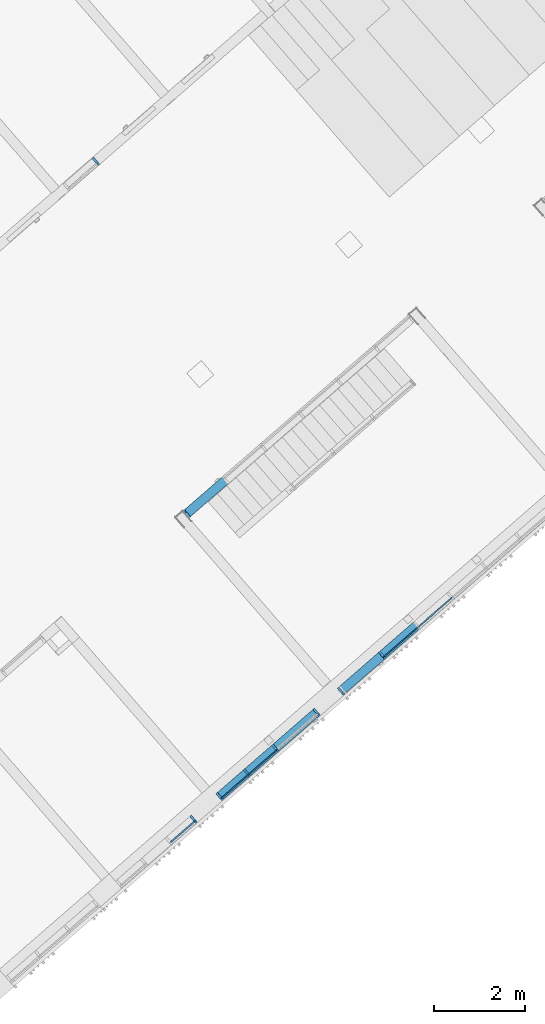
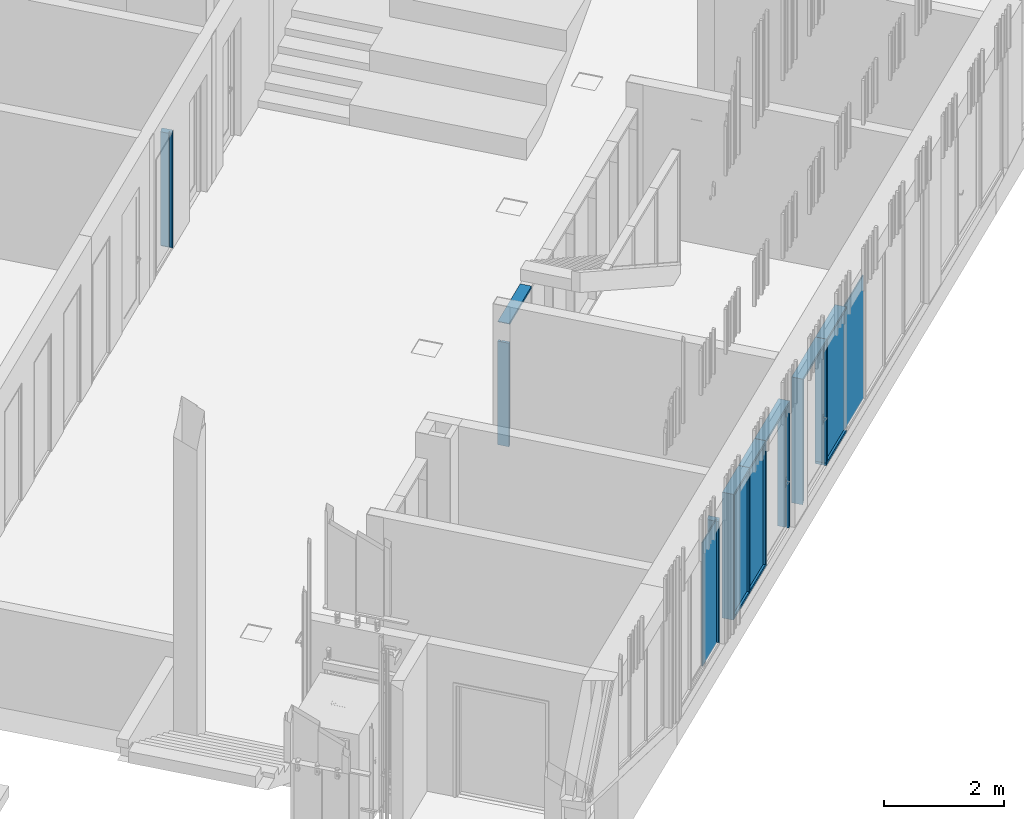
# One storey, part 7 of 124: 23 discrete accessories, 5 elements without a shape of their own.
"""IFC2X3 building model written with IfcOpenShell, lengths in millimetres."""

from ifc_helpers import new_model, entity, si_unit, converted_unit, derived_unit, money_unit, direction, frame, origin_with_axes, place, context, subcontext, project, spatial, polyline, outline, extrude, clip, halfspace, material, material_list, type_object, element, aggregate, save


model = new_model("IFC2X3")

# Units and contexts
model_context = context("Model", 3, precision=1e-05, world=origin_with_axes(), true_north=direction((0.0, 1.0)))
body_context = subcontext(model_context, "Body", "Model", "MODEL_VIEW")
ifc_project = project(units=[si_unit("LENGTHUNIT", "METRE", prefix="MILLI"), si_unit("AREAUNIT", "SQUARE_METRE"), si_unit("VOLUMEUNIT", "CUBIC_METRE"), converted_unit("PLANEANGLEUNIT", "DEGREE", entity("IfcPlaneAngleMeasure", 0.0174532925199), si_unit("PLANEANGLEUNIT", "RADIAN"), dimensions=[0, 0, 0, 0, 0, 0, 0]), si_unit("SOLIDANGLEUNIT", "STERADIAN"), money_unit("EUR"), converted_unit("TIMEUNIT", "Year", entity("IfcTimeMeasure", 31556926.0), si_unit("TIMEUNIT", "SECOND"), dimensions=[0, 0, 1, 0, 0, 0, 0]), si_unit("MASSUNIT", "GRAM", prefix="KILO"), si_unit("THERMODYNAMICTEMPERATUREUNIT", "DEGREE_CELSIUS"), si_unit("LUMINOUSINTENSITYUNIT", "LUMEN"), si_unit("ENERGYUNIT", "JOULE", prefix="MEGA"), derived_unit("THERMALCONDUCTANCEUNIT", [(si_unit("POWERUNIT", "WATT"), 1), (si_unit("LENGTHUNIT", "METRE"), -1), (si_unit("THERMODYNAMICTEMPERATUREUNIT", "KELVIN"), -1)]), derived_unit("SPECIFICHEATCAPACITYUNIT", [(si_unit("ENERGYUNIT", "JOULE"), 1), (si_unit("MASSUNIT", "GRAM", prefix="KILO"), -1), (si_unit("THERMODYNAMICTEMPERATUREUNIT", "KELVIN"), -1)]), derived_unit("MASSDENSITYUNIT", [(si_unit("MASSUNIT", "GRAM", prefix="KILO"), 1), (si_unit("VOLUMEUNIT", "CUBIC_METRE"), -1)])], contexts=[model_context])

# Site, building, storey
site_placement = place(None, origin_with_axes())
site = spatial("IfcSite", under=ifc_project, at=site_placement, Name="Site", CompositionType="ELEMENT")
building_placement = place(site_placement, origin_with_axes())
building = spatial("IfcBuilding", under=site, at=building_placement, Name="Building", CompositionType="ELEMENT")
storey_placement = place(building_placement, frame((0.0, 0.0, -1615.0), z_axis=(0.0, 0.0, 1.0), x_axis=(1.0, 0.0, 0.0)))
storey = spatial("IfcBuildingStorey", under=building, at=storey_placement, Name="0  korrus", CompositionType="ELEMENT", Elevation=-1615.0)

# Curtain wall, discrete accessory
curtain_wall_type_1 = type_object("IfcCurtainWallType", Name="KS-07", PredefinedType="NOTDEFINED")
curtain_wall_1_placement = place(storey_placement, frame((152372.169212, 93611.2845687, 0.0), z_axis=(0.0, 0.0, 1.0), x_axis=(1.0, 0.0, 0.0)))
curtain_wall_1 = element("IfcCurtainWall", 1, at=curtain_wall_1_placement, inside=storey, type_object=curtain_wall_type_1, Name="Klaas-sein")
ifc_material_1 = material(Name="Aluminium MUST")
ifc_material_list_1 = material_list([ifc_material_1, ifc_material_1, ifc_material_1])
discrete_accessory_type_1 = type_object("IfcDiscreteAccessoryType", Name="50 x 200")
discrete_accessory_1_placement = place(curtain_wall_1_placement, frame((339.619310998, 295.226563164, 0.0), z_axis=(0.0, 0.0, 1.0), x_axis=(-0.754709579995, -0.656059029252, 0.0)))
discrete_accessory_1 = element("IfcDiscreteAccessory", 2, at=discrete_accessory_1_placement, type_object=discrete_accessory_type_1, material=ifc_material_list_1, Name="KS-07 profiil", context=body_context, shape_type="Clipping", body=[
    clip(clip(extrude(outline(polyline([(-25.4283297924, -8.85437993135), (-12.3071492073, -23.9485715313), (6.56059029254, -7.54709579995), (-6.56059029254, 7.54709579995), (-25.4283297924, -8.85437993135)])), frame((0.0, 0.0, 0.0), z_axis=(0.0, 0.0, 1.0), x_axis=(-0.754709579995, 0.656059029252, 0.0)), (0.0, 0.0, 1.0), 2400.00001788), halfspace(frame((1200.00000894, 0.0, 1200.00000894), z_axis=(-0.707106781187, 0.0, -0.707106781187), x_axis=(0.0, 1.0, 0.0)), True)), halfspace(frame((0.0, 0.0, 0.0), z_axis=(-0.707106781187, 0.0, 0.707106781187), x_axis=(0.0, -1.0, 0.0)), True)),
    clip(clip(extrude(outline(polyline([(-136.144333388, 80.4034855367), (-44.2960692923, -25.2558556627), (-6.56059029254, 7.54709579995), (-98.4088543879, 113.206436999), (-136.144333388, 80.4034855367)])), frame((0.0, 0.0, 0.0), z_axis=(0.0, 0.0, 1.0), x_axis=(-0.754709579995, 0.656059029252, 0.0)), (0.0, 0.0, 1.0), 2400.00001788), halfspace(frame((1200.00000894, 0.0, 1200.00000894), z_axis=(-0.707106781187, 0.0, -0.707106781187), x_axis=(0.0, 1.0, 0.0)), True)), halfspace(frame((0.0, 0.0, 0.0), z_axis=(-0.707106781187, 0.0, 0.707106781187), x_axis=(0.0, -1.0, 0.0)), True)),
    clip(clip(extrude(outline(polyline([(32.8029514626, -37.7354789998), (6.56059029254, -7.54709579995), (-31.1748887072, -40.3500472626), (-4.93252753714, -70.5384304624), (32.8029514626, -37.7354789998)])), frame((0.0, 0.0, 0.0), z_axis=(0.0, 0.0, 1.0), x_axis=(-0.754709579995, 0.656059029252, 0.0)), (0.0, 0.0, 1.0), 2400.00001788), halfspace(frame((1200.00000894, 0.0, 1200.00000894), z_axis=(-0.707106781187, 0.0, -0.707106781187), x_axis=(0.0, 1.0, 0.0)), True)), halfspace(frame((0.0, 0.0, 0.0), z_axis=(-0.707106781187, 0.0, 0.707106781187), x_axis=(0.0, -1.0, 0.0)), True)),
])
aggregate(curtain_wall_1, [discrete_accessory_1])

# Curtain wall, discrete accessories
curtain_wall_type_2 = type_object("IfcCurtainWallType", Name="KLF-04", PredefinedType="NOTDEFINED")
curtain_wall_2_placement = place(storey_placement, frame((162346.343492, 85970.7645105, 0.0), z_axis=(0.0, 0.0, 1.0), x_axis=(1.0, 0.0, 0.0)))
curtain_wall_2 = element("IfcCurtainWall", 3, at=curtain_wall_2_placement, inside=storey, type_object=curtain_wall_type_2, Name="Klaasfassaad")
discrete_accessory_type_2 = type_object("IfcDiscreteAccessoryType", Name="50 x 200")
discrete_accessory_2_placement = place(curtain_wall_2_placement, frame((-3366.01529213, -2926.01111637, 0.0), z_axis=(0.754711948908, 0.65605630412, 0.0), x_axis=(0.0, 0.0, 1.0)))
discrete_accessory_2 = element("IfcDiscreteAccessory", 4, at=discrete_accessory_2_placement, type_object=discrete_accessory_type_2, Name="KLF-04 profiil", context=body_context, shape_type="SweptSolid", body=[
    extrude(outline(polyline([(-10.0, -25.0), (10.0, -25.0), (10.0, 0.0), (-10.0, 0.0), (-10.0, -25.0)])), frame((0.0, 0.0, -25.0), z_axis=(0.0, 0.0, 1.0), x_axis=(0.0, 1.0, 0.0)), (0.0, 0.0, 1.0), 1020.0),
    extrude(outline(polyline([(-150.0, -50.0), (-10.0, -50.0), (-10.0, 0.0), (-150.0, 0.0), (-150.0, -50.0)])), frame((0.0, 0.0, -25.0), z_axis=(0.0, 0.0, 1.0), x_axis=(0.0, 1.0, 0.0)), (0.0, 0.0, 1.0), 1020.0),
    extrude(outline(polyline([(50.0, 0.0), (10.0, 0.0), (10.0, -50.0), (50.0, -50.0), (50.0, 0.0)])), frame((0.0, 0.0, -25.0), z_axis=(0.0, 0.0, 1.0), x_axis=(0.0, 1.0, 0.0)), (0.0, 0.0, 1.0), 1020.0),
])
ifc_material_list_2 = material_list([ifc_material_1, ifc_material_1])
discrete_accessory_3_placement = place(curtain_wall_2_placement, frame((-3366.01529213, -2926.01111637, 0.0), z_axis=(0.0, 0.0, 1.0), x_axis=(-0.754711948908, -0.65605630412, 0.0)))
discrete_accessory_3 = element("IfcDiscreteAccessory", 5, at=discrete_accessory_3_placement, type_object=discrete_accessory_type_2, material=ifc_material_list_2, Name="KLF-04 profiil", context=body_context, shape_type="SweptSolid", body=[
    extrude(outline(polyline([(12.3072356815, 23.9485270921), (-79.5406468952, 129.608199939), (-117.276244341, 96.8053847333), (-25.4283617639, -8.85428811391), (12.3072356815, 23.9485270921)])), frame((0.0, 0.0, 50.0), z_axis=(0.0, 0.0, 1.0), x_axis=(-0.754711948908, 0.65605630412, 0.0)), (0.0, 0.0, 1.0), 2450.00001132),
    extrude(outline(polyline([(25.4283617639, 8.85428811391), (-12.3072356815, -23.9485270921), (13.9350164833, -54.1370050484), (51.6706139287, -21.3341898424), (25.4283617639, 8.85428811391)])), frame((0.0, 0.0, 50.0), z_axis=(0.0, 0.0, 1.0), x_axis=(-0.754711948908, 0.65605630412, 0.0)), (0.0, 0.0, 1.0), 2450.00001132),
])
discrete_accessory_4_placement = place(curtain_wall_2_placement, frame((-4290.53742954, -3729.68008892, 2550.00001132), z_axis=(0.754711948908, 0.65605630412, 0.0), x_axis=(0.0, 0.0, 1.0)))
discrete_accessory_4 = element("IfcDiscreteAccessory", 6, at=discrete_accessory_4_placement, type_object=discrete_accessory_type_2, Name="KLF-04 profiil", context=body_context, shape_type="Clipping", body=[
    clip(extrude(outline(polyline([(-10.0, 25.0), (-10.0, 0.0), (10.0, 0.0), (10.0, 25.0), (-10.0, 25.0)])), frame((0.0, 0.0, 0.0), z_axis=(0.0, 0.0, 1.0), x_axis=(0.0, 1.0, 0.0)), (0.0, 0.0, 1.0), 1225.0), halfspace(frame((0.0, 0.0, 0.0), z_axis=(0.707106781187, 0.0, 0.707106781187), x_axis=(0.0, -1.0, 0.0)), True)),
    clip(extrude(outline(polyline([(-150.0, 50.0), (-150.0, 0.0), (-10.0, 0.0), (-10.0, 50.0), (-150.0, 50.0)])), frame((0.0, 0.0, 0.0), z_axis=(0.0, 0.0, 1.0), x_axis=(0.0, 1.0, 0.0)), (0.0, 0.0, 1.0), 1225.0), halfspace(frame((0.0, 0.0, 0.0), z_axis=(0.707106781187, 0.0, 0.707106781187), x_axis=(0.0, -1.0, 0.0)), True)),
    clip(extrude(outline(polyline([(50.0, 0.0), (50.0, 50.0), (10.0, 50.0), (10.0, 0.0), (50.0, 0.0)])), frame((0.0, 0.0, 0.0), z_axis=(0.0, 0.0, 1.0), x_axis=(0.0, 1.0, 0.0)), (0.0, 0.0, 1.0), 1225.0), halfspace(frame((0.0, 0.0, 0.0), z_axis=(0.707106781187, 0.0, 0.707106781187), x_axis=(0.0, -1.0, 0.0)), True)),
])
discrete_accessory_5_placement = place(curtain_wall_2_placement, frame((-3366.01529213, -2926.01111637, 2550.00001132), z_axis=(0.754711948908, 0.65605630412, 0.0), x_axis=(0.0, 0.0, 1.0)))
discrete_accessory_5 = element("IfcDiscreteAccessory", 7, at=discrete_accessory_5_placement, type_object=discrete_accessory_type_2, Name="KLF-04 profiil", context=body_context, shape_type="SweptSolid", body=[
    extrude(outline(polyline([(-10.0, 25.0), (-10.0, 0.0), (10.0, 0.0), (10.0, 25.0), (-10.0, 25.0)])), frame((0.0, 0.0, 0.0), z_axis=(0.0, 0.0, 1.0), x_axis=(0.0, 1.0, 0.0)), (0.0, 0.0, 1.0), 995.0),
    extrude(outline(polyline([(-150.0, 50.0), (-150.0, 0.0), (-10.0, 0.0), (-10.0, 50.0), (-150.0, 50.0)])), frame((0.0, 0.0, 0.0), z_axis=(0.0, 0.0, 1.0), x_axis=(0.0, 1.0, 0.0)), (0.0, 0.0, 1.0), 995.0),
    extrude(outline(polyline([(50.0, 0.0), (50.0, 50.0), (10.0, 50.0), (10.0, 0.0), (50.0, 0.0)])), frame((0.0, 0.0, 0.0), z_axis=(0.0, 0.0, 1.0), x_axis=(0.0, 1.0, 0.0)), (0.0, 0.0, 1.0), 995.0),
])
discrete_accessory_6_placement = place(curtain_wall_2_placement, frame((-4290.53742954, -3729.68008892, 0.0), z_axis=(0.0, 0.0, 1.0), x_axis=(-0.754711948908, -0.65605630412, 0.0)))
discrete_accessory_6 = element("IfcDiscreteAccessory", 8, at=discrete_accessory_6_placement, type_object=discrete_accessory_type_2, Name="KLF-04 profiil", context=body_context, shape_type="Clipping", body=[
    clip(clip(extrude(outline(polyline([(12.3072356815, 23.9485270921), (-6.56056304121, 7.54711948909), (6.56056304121, -7.54711948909), (25.4283617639, 8.85428811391), (12.3072356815, 23.9485270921)])), frame((0.0, 0.0, 0.0), z_axis=(0.0, 0.0, 1.0), x_axis=(-0.754711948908, 0.65605630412, 0.0)), (0.0, 0.0, 1.0), 2550.00001132), halfspace(frame((0.0, 0.0, 0.0), z_axis=(0.707106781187, 0.0, 0.707106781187), x_axis=(0.0, -1.0, 0.0)), True)), halfspace(frame((-1275.00000566, 0.0, 1275.00000566), z_axis=(0.707106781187, 0.0, -0.707106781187), x_axis=(0.0, 1.0, 0.0)), True)),
    clip(clip(extrude(outline(polyline([(-60.6728481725, 146.009607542), (-98.4084456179, 113.206792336), (-6.56056304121, 7.54711948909), (31.1750344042, 40.3499346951), (-60.6728481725, 146.009607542)])), frame((0.0, 0.0, 0.0), z_axis=(0.0, 0.0, 1.0), x_axis=(-0.754711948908, 0.65605630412, 0.0)), (0.0, 0.0, 1.0), 2550.00001132), halfspace(frame((0.0, 0.0, 0.0), z_axis=(0.707106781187, 0.0, 0.707106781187), x_axis=(0.0, -1.0, 0.0)), True)), halfspace(frame((-1275.00000566, 0.0, 1275.00000566), z_axis=(0.707106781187, 0.0, -0.707106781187), x_axis=(0.0, 1.0, 0.0)), True)),
    clip(clip(extrude(outline(polyline([(32.802815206, -37.7355974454), (70.5384126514, -4.93278223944), (44.2961604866, 25.2556957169), (6.56056304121, -7.54711948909), (32.802815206, -37.7355974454)])), frame((0.0, 0.0, 0.0), z_axis=(0.0, 0.0, 1.0), x_axis=(-0.754711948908, 0.65605630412, 0.0)), (0.0, 0.0, 1.0), 2550.00001132), halfspace(frame((0.0, 0.0, 0.0), z_axis=(0.707106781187, 0.0, 0.707106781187), x_axis=(0.0, -1.0, 0.0)), True)), halfspace(frame((-1275.00000566, 0.0, 1275.00000566), z_axis=(0.707106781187, 0.0, -0.707106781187), x_axis=(0.0, 1.0, 0.0)), True)),
])
ifc_material_2 = material(Name="Klaas")
discrete_accessory_type_3 = type_object("IfcDiscreteAccessoryType", Name="Distinct Panel 995 x 2510 x 20")
discrete_accessory_7_placement = place(curtain_wall_2_placement, frame((-2990.54609755, -2599.62310507, 1275.00000566), z_axis=(0.0, 0.0, 1.0), x_axis=(-0.754711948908, -0.65605630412, 0.0)))
discrete_accessory_7 = element("IfcDiscreteAccessory", 9, at=discrete_accessory_7_placement, type_object=discrete_accessory_type_3, material=ifc_material_2, Name="KLF-04 klaaspakett", context=body_context, shape_type="SweptSolid", body=[
    extrude(outline(polyline([(-497.49998656, -1254.99998769), (497.499995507, -1254.99998769), (497.499995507, 1254.99998769), (-497.49998656, 1254.99998769), (-497.49998656, -1254.99998769)])), frame((0.0, -10.0, 0.0), z_axis=(0.0, 1.0, 0.0), x_axis=(1.0, 0.0, 0.0)), (0.0, 0.0, 1.0), 20.0),
])
discrete_accessory_type_4 = type_object("IfcDiscreteAccessoryType", Name="Distinct Panel 990 x 2510 x 20")
discrete_accessory_8_placement = place(curtain_wall_2_placement, frame((-2241.49448826, -1948.48722324, 1275.00000566), z_axis=(0.0, 0.0, 1.0), x_axis=(-0.754711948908, -0.65605630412, 0.0)))
discrete_accessory_8 = element("IfcDiscreteAccessory", 10, at=discrete_accessory_8_placement, type_object=discrete_accessory_type_4, material=ifc_material_2, Name="KLF-04 klaaspakett", context=body_context, shape_type="SweptSolid", body=[
    extrude(outline(polyline([(-495.000020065, -1254.99998769), (494.999995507, -1254.99998769), (494.999995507, 1254.99998769), (-495.000020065, 1254.99998769), (-495.000020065, -1254.99998769)])), frame((0.0, -10.0, 0.0), z_axis=(0.0, 1.0, 0.0), x_axis=(1.0, 0.0, 0.0)), (0.0, 0.0, 1.0), 20.0),
])
aggregate(curtain_wall_2, [discrete_accessory_7, discrete_accessory_8, discrete_accessory_2, discrete_accessory_3, discrete_accessory_4, discrete_accessory_5, discrete_accessory_6])

curtain_wall_type_3 = type_object("IfcCurtainWallType", Name="KLF-05", PredefinedType="NOTDEFINED")
curtain_wall_3_placement = place(storey_placement, frame((156321.859107, 80733.7914725, 0.0), z_axis=(0.0, 0.0, 1.0), x_axis=(1.0, 0.0, 0.0)))
curtain_wall_3 = element("IfcCurtainWall", 11, at=curtain_wall_3_placement, inside=storey, type_object=curtain_wall_type_3, Name="Klaasfassaad")
discrete_accessory_type_5 = type_object("IfcDiscreteAccessoryType", Name="Distinct Panel 825 x 2510 x 20")
discrete_accessory_9_placement = place(curtain_wall_3_placement, frame((0.0, 0.0, 1275.00000397), z_axis=(0.0, 0.0, 1.0), x_axis=(-0.754710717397, -0.656057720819, 0.0)))
discrete_accessory_9 = element("IfcDiscreteAccessory", 12, at=discrete_accessory_9_placement, type_object=discrete_accessory_type_5, material=ifc_material_2, Name="KLF-05 klaaspakett", context=body_context, shape_type="SweptSolid", body=[
    extrude(outline(polyline([(-412.500018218, -1254.99998603), (412.5, -1254.99998603), (412.5, 1254.99998603), (-412.500018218, 1254.99998603), (-412.500018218, -1254.99998603)])), frame((0.0, -9.99999999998, 0.0), z_axis=(0.0, 1.0, 0.0), x_axis=(1.0, 0.0, 0.0)), (0.0, 0.0, 1.0), 20.0),
])
discrete_accessory_type_6 = type_object("IfcDiscreteAccessoryType", Name="Distinct Panel 800 x 2510 x 20")
discrete_accessory_10_placement = place(curtain_wall_3_placement, frame((-620.749565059, -539.607475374, 1275.00000397), z_axis=(0.0, 0.0, 1.0), x_axis=(-0.754710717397, -0.656057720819, 0.0)))
discrete_accessory_10 = element("IfcDiscreteAccessory", 13, at=discrete_accessory_10_placement, type_object=discrete_accessory_type_6, material=ifc_material_2, Name="KLF-05 klaaspakett", context=body_context, shape_type="SweptSolid", body=[
    extrude(outline(polyline([(-410.000013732, -1254.99998603), (389.999982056, -1254.99998603), (389.999982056, 1254.99998603), (-410.000013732, 1254.99998603), (-410.000013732, -1254.99998603)])), frame((0.0, -10.0, 0.0), z_axis=(0.0, 1.0, 0.0), x_axis=(1.0, 0.0, 0.0)), (0.0, 0.0, 1.0), 20.0),
])
discrete_accessory_type_7 = type_object("IfcDiscreteAccessoryType", Name="50 x 200")
discrete_accessory_11_placement = place(curtain_wall_3_placement, frame((-930.180959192, -808.59114091, 0.0), z_axis=(0.754710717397, 0.656057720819, 0.0), x_axis=(0.0, 0.0, 1.0)))
discrete_accessory_11 = element("IfcDiscreteAccessory", 14, at=discrete_accessory_11_placement, type_object=discrete_accessory_type_7, material=ifc_material_list_1, Name="KLF-05 profiil", context=body_context, shape_type="Clipping", body=[
    clip(extrude(outline(polyline([(-10.0, -25.0), (10.0, -25.0), (10.0, 0.0), (-10.0, 0.0), (-10.0, -25.0)])), frame((0.0, 0.0, 0.0), z_axis=(0.0, 0.0, 1.0), x_axis=(0.0, 1.0, 0.0)), (0.0, 0.0, 1.0), 820.0), halfspace(frame((0.0, 0.0, 0.0), z_axis=(-0.707106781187, 0.0, 0.707106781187), x_axis=(0.0, -1.0, 0.0)), True)),
    clip(extrude(outline(polyline([(-150.0, -50.0), (-10.0, -50.0), (-10.0, 0.0), (-150.0, 0.0), (-150.0, -50.0)])), frame((0.0, 0.0, 0.0), z_axis=(0.0, 0.0, 1.0), x_axis=(0.0, 1.0, 0.0)), (0.0, 0.0, 1.0), 820.0), halfspace(frame((0.0, 0.0, 0.0), z_axis=(-0.707106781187, 0.0, 0.707106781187), x_axis=(0.0, -1.0, 0.0)), True)),
    clip(extrude(outline(polyline([(50.0, 0.0), (10.0, 0.0), (10.0, -50.0), (50.0, -50.0), (50.0, 0.0)])), frame((0.0, 0.0, 0.0), z_axis=(0.0, 0.0, 1.0), x_axis=(0.0, 1.0, 0.0)), (0.0, 0.0, 1.0), 820.0), halfspace(frame((0.0, 0.0, 0.0), z_axis=(-0.707106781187, 0.0, 0.707106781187), x_axis=(0.0, -1.0, 0.0)), True)),
])
discrete_accessory_12_placement = place(curtain_wall_3_placement, frame((311.318170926, 270.623809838, 0.0), z_axis=(0.0, 0.0, 1.0), x_axis=(-0.754710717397, -0.656057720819, 0.0)))
discrete_accessory_12 = element("IfcDiscreteAccessory", 15, at=discrete_accessory_12_placement, type_object=discrete_accessory_type_7, material=ifc_material_list_2, Name="KLF-05 profiil", context=body_context, shape_type="SweptSolid", body=[
    extrude(outline(polyline([(-117.276426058, 96.805164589), (-25.4283451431, -8.85433584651), (12.3071907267, 23.9485501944), (-79.540890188, 129.60805063), (-117.276426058, 96.805164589)])), frame((0.0, 0.0, 50.0), z_axis=(0.0, 0.0, 1.0), x_axis=(-0.754710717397, 0.656057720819, 0.0)), (0.0, 0.0, 1.0), 2450.00000795),
    extrude(outline(polyline([(51.6706539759, -21.3340928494), (25.4283451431, 8.85433584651), (-12.3071907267, -23.9485501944), (13.935118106, -54.1369788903), (51.6706539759, -21.3340928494)])), frame((0.0, 0.0, 50.0), z_axis=(0.0, 0.0, 1.0), x_axis=(-0.754710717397, 0.656057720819, 0.0)), (0.0, 0.0, 1.0), 2450.00000795),
])
discrete_accessory_13_placement = place(curtain_wall_3_placement, frame((1235.83879974, 1074.29451784, 2550.00000795), z_axis=(-0.754710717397, -0.656057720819, 0.0), x_axis=(0.0, 0.0, -1.0)))
discrete_accessory_13 = element("IfcDiscreteAccessory", 16, at=discrete_accessory_13_placement, type_object=discrete_accessory_type_7, material=ifc_material_list_1, Name="KLF-05 profiil", context=body_context, shape_type="Clipping", body=[
    clip(extrude(outline(polyline([(10.0, 25.0), (-9.99999999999, 25.0), (-9.99999999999, 0.0), (10.0, 0.0), (10.0, 25.0)])), frame((0.0, 0.0, 0.0), z_axis=(0.0, 0.0, 1.0), x_axis=(0.0, -1.0, 0.0)), (0.0, 0.0, 1.0), 1225.0), halfspace(frame((0.0, 0.0, 0.0), z_axis=(-0.707106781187, 0.0, 0.707106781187), x_axis=(0.0, -1.0, 0.0)), True)),
    clip(extrude(outline(polyline([(150.0, 50.0), (10.0, 50.0), (10.0, 0.0), (150.0, 0.0), (150.0, 50.0)])), frame((0.0, 0.0, 0.0), z_axis=(0.0, 0.0, 1.0), x_axis=(0.0, -1.0, 0.0)), (0.0, 0.0, 1.0), 1225.0), halfspace(frame((0.0, 0.0, 0.0), z_axis=(-0.707106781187, 0.0, 0.707106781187), x_axis=(0.0, -1.0, 0.0)), True)),
    clip(extrude(outline(polyline([(-50.0, 0.0), (-9.99999999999, 0.0), (-9.99999999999, 50.0), (-50.0, 50.0), (-50.0, 0.0)])), frame((0.0, 0.0, 0.0), z_axis=(0.0, 0.0, 1.0), x_axis=(0.0, -1.0, 0.0)), (0.0, 0.0, 1.0), 1225.0), halfspace(frame((0.0, 0.0, 0.0), z_axis=(-0.707106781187, 0.0, 0.707106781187), x_axis=(0.0, -1.0, 0.0)), True)),
])
discrete_accessory_14_placement = place(curtain_wall_3_placement, frame((-311.318170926, -270.623809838, 0.0), z_axis=(0.754710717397, 0.656057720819, 0.0), x_axis=(0.0, 0.0, 1.0)))
discrete_accessory_14 = element("IfcDiscreteAccessory", 17, at=discrete_accessory_14_placement, type_object=discrete_accessory_type_7, material=ifc_material_list_1, Name="KLF-05 profiil", context=body_context, shape_type="SweptSolid", body=[
    extrude(outline(polyline([(-9.99999999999, -25.0), (10.0, -25.0), (10.0, 0.0), (-9.99999999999, 0.0), (-9.99999999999, -25.0)])), frame((0.0, 0.0, 0.0), z_axis=(0.0, 0.0, 1.0), x_axis=(0.0, 1.0, 0.0)), (0.0, 0.0, 1.0), 850.0),
    extrude(outline(polyline([(-150.0, -50.0), (-9.99999999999, -50.0), (-9.99999999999, 0.0), (-150.0, 0.0), (-150.0, -50.0)])), frame((0.0, 0.0, 0.0), z_axis=(0.0, 0.0, 1.0), x_axis=(0.0, 1.0, 0.0)), (0.0, 0.0, 1.0), 850.0),
    extrude(outline(polyline([(50.0, 0.0), (10.0, 0.0), (10.0, -50.0), (50.0, -50.0), (50.0, 0.0)])), frame((0.0, 0.0, 0.0), z_axis=(0.0, 0.0, 1.0), x_axis=(0.0, 1.0, 0.0)), (0.0, 0.0, 1.0), 850.0),
])
discrete_accessory_15_placement = place(curtain_wall_3_placement, frame((1235.83879974, 1074.29451784, 0.0), z_axis=(0.0, 0.0, 1.0), x_axis=(-0.754710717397, -0.656057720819, 0.0)))
discrete_accessory_15 = element("IfcDiscreteAccessory", 18, at=discrete_accessory_15_placement, type_object=discrete_accessory_type_7, material=ifc_material_list_1, Name="KLF-05 profiil", context=body_context, shape_type="Clipping", body=[
    clip(extrude(outline(polyline([(-25.4283451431, -8.85433584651), (-12.3071907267, -23.9485501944), (6.56057720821, -7.54710717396), (-6.56057720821, 7.54710717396), (-25.4283451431, -8.85433584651)])), frame((0.0, 0.0, 0.0), z_axis=(0.0, 0.0, 1.0), x_axis=(-0.754710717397, 0.656057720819, 0.0)), (0.0, 0.0, 1.0), 2550.00000795), halfspace(frame((1275.00000397, 0.0, 1275.00000397), z_axis=(-0.707106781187, 0.0, -0.707106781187), x_axis=(0.0, 1.0, 0.0)), True)),
    clip(extrude(outline(polyline([(-136.144193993, 80.4037215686), (-44.296113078, -25.255778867), (-6.56057720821, 7.54710717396), (-98.4086581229, 113.20660761), (-136.144193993, 80.4037215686)])), frame((0.0, 0.0, 0.0), z_axis=(0.0, 0.0, 1.0), x_axis=(-0.754710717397, 0.656057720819, 0.0)), (0.0, 0.0, 1.0), 2550.00000795), halfspace(frame((1275.00000397, 0.0, 1275.00000397), z_axis=(-0.707106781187, 0.0, -0.707106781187), x_axis=(0.0, 1.0, 0.0)), True)),
    clip(extrude(outline(polyline([(32.802886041, -37.7355358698), (6.56057720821, -7.54710717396), (-31.1749586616, -40.3499932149), (-4.93264982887, -70.5384219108), (32.802886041, -37.7355358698)])), frame((0.0, 0.0, 0.0), z_axis=(0.0, 0.0, 1.0), x_axis=(-0.754710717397, 0.656057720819, 0.0)), (0.0, 0.0, 1.0), 2550.00000795), halfspace(frame((1275.00000397, 0.0, 1275.00000397), z_axis=(-0.707106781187, 0.0, -0.707106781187), x_axis=(0.0, 1.0, 0.0)), True)),
])
discrete_accessory_16_placement = place(curtain_wall_3_placement, frame((311.318170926, 270.623809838, 2550.00000795), z_axis=(-0.754710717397, -0.656057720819, 0.0), x_axis=(0.0, 0.0, -1.0)))
discrete_accessory_16 = element("IfcDiscreteAccessory", 19, at=discrete_accessory_16_placement, type_object=discrete_accessory_type_7, material=ifc_material_list_1, Name="KLF-05 profiil", context=body_context, shape_type="SweptSolid", body=[
    extrude(outline(polyline([(10.0, 25.0), (-9.99999999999, 25.0), (-9.99999999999, 0.0), (10.0, 0.0), (10.0, 25.0)])), frame((0.0, 0.0, 0.0), z_axis=(0.0, 0.0, 1.0), x_axis=(0.0, -1.0, 0.0)), (0.0, 0.0, 1.0), 825.0),
    extrude(outline(polyline([(150.0, 50.0), (10.0, 50.0), (10.0, 0.0), (150.0, 0.0), (150.0, 50.0)])), frame((0.0, 0.0, 0.0), z_axis=(0.0, 0.0, 1.0), x_axis=(0.0, -1.0, 0.0)), (0.0, 0.0, 1.0), 825.0),
    extrude(outline(polyline([(-50.0, 0.0), (-9.99999999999, 0.0), (-9.99999999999, 50.0), (-50.0, 50.0), (-50.0, 0.0)])), frame((0.0, 0.0, 0.0), z_axis=(0.0, 0.0, 1.0), x_axis=(0.0, -1.0, 0.0)), (0.0, 0.0, 1.0), 825.0),
])
discrete_accessory_17_placement = place(curtain_wall_3_placement, frame((-930.180959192, -808.59114091, 0.0), z_axis=(0.0, 0.0, 1.0), x_axis=(-0.754710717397, -0.656057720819, 0.0)))
discrete_accessory_17 = element("IfcDiscreteAccessory", 20, at=discrete_accessory_17_placement, type_object=discrete_accessory_type_7, material=ifc_material_list_1, Name="KLF-05 profiil", context=body_context, shape_type="Clipping", body=[
    clip(clip(extrude(outline(polyline([(12.3071907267, 23.9485501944), (-6.56057720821, 7.54710717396), (6.56057720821, -7.54710717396), (25.4283451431, 8.85433584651), (12.3071907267, 23.9485501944)])), frame((0.0, 0.0, 0.0), z_axis=(0.0, 0.0, 1.0), x_axis=(-0.754710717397, 0.656057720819, 0.0)), (0.0, 0.0, 1.0), 2550.00000795), halfspace(frame((0.0, 0.0, 0.0), z_axis=(0.707106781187, 0.0, 0.707106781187), x_axis=(0.0, -1.0, 0.0)), True)), halfspace(frame((-1275.00000397, 0.0, 1275.00000397), z_axis=(0.707106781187, 0.0, -0.707106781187), x_axis=(0.0, 1.0, 0.0)), True)),
    clip(clip(extrude(outline(polyline([(-60.673122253, 146.00949365), (-98.4086581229, 113.20660761), (-6.56057720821, 7.54710717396), (31.1749586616, 40.3499932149), (-60.673122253, 146.00949365)])), frame((0.0, 0.0, 0.0), z_axis=(0.0, 0.0, 1.0), x_axis=(-0.754710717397, 0.656057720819, 0.0)), (0.0, 0.0, 1.0), 2550.00000795), halfspace(frame((0.0, 0.0, 0.0), z_axis=(0.707106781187, 0.0, 0.707106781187), x_axis=(0.0, -1.0, 0.0)), True)), halfspace(frame((-1275.00000397, 0.0, 1275.00000397), z_axis=(0.707106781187, 0.0, -0.707106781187), x_axis=(0.0, 1.0, 0.0)), True)),
    clip(clip(extrude(outline(polyline([(32.802886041, -37.7355358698), (70.5384219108, -4.93264982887), (44.296113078, 25.255778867), (6.56057720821, -7.54710717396), (32.802886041, -37.7355358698)])), frame((0.0, 0.0, 0.0), z_axis=(0.0, 0.0, 1.0), x_axis=(-0.754710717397, 0.656057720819, 0.0)), (0.0, 0.0, 1.0), 2550.00000795), halfspace(frame((0.0, 0.0, 0.0), z_axis=(0.707106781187, 0.0, 0.707106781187), x_axis=(0.0, -1.0, 0.0)), True)), halfspace(frame((-1275.00000397, 0.0, 1275.00000397), z_axis=(0.707106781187, 0.0, -0.707106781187), x_axis=(0.0, 1.0, 0.0)), True)),
])
discrete_accessory_18_placement = place(curtain_wall_3_placement, frame((-311.318170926, -270.623809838, 0.0), z_axis=(0.0, 0.0, 1.0), x_axis=(-0.754710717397, -0.656057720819, 0.0)))
discrete_accessory_18 = element("IfcDiscreteAccessory", 21, at=discrete_accessory_18_placement, type_object=discrete_accessory_type_7, material=ifc_material_list_2, Name="KLF-05 profiil", context=body_context, shape_type="SweptSolid", body=[
    extrude(outline(polyline([(-117.276426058, 96.805164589), (-25.4283451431, -8.85433584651), (12.3071907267, 23.9485501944), (-79.540890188, 129.60805063), (-117.276426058, 96.805164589)])), frame((0.0, 0.0, 50.0), z_axis=(0.0, 0.0, 1.0), x_axis=(-0.754710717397, 0.656057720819, 0.0)), (0.0, 0.0, 1.0), 2450.00000795),
    extrude(outline(polyline([(51.6706539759, -21.3340928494), (25.4283451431, 8.85433584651), (-12.3071907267, -23.9485501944), (13.935118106, -54.1369788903), (51.6706539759, -21.3340928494)])), frame((0.0, 0.0, 50.0), z_axis=(0.0, 0.0, 1.0), x_axis=(-0.754710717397, 0.656057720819, 0.0)), (0.0, 0.0, 1.0), 2450.00000795),
])
discrete_accessory_19_placement = place(curtain_wall_3_placement, frame((-311.318170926, -270.623809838, 2550.00000795), z_axis=(-0.754710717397, -0.656057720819, 0.0), x_axis=(0.0, 0.0, -1.0)))
discrete_accessory_19 = element("IfcDiscreteAccessory", 22, at=discrete_accessory_19_placement, type_object=discrete_accessory_type_7, material=ifc_material_list_1, Name="KLF-05 profiil", context=body_context, shape_type="Clipping", body=[
    clip(extrude(outline(polyline([(10.0, 25.0), (-10.0, 25.0), (-10.0, 0.0), (10.0, 0.0), (10.0, 25.0)])), frame((0.0, 0.0, 0.0), z_axis=(0.0, 0.0, 1.0), x_axis=(0.0, -1.0, 0.0)), (0.0, 0.0, 1.0), 820.0), halfspace(frame((410.0, 0.0, 410.0), z_axis=(-0.707106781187, 0.0, -0.707106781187), x_axis=(0.0, 1.0, 0.0)), True)),
    clip(extrude(outline(polyline([(150.0, 50.0), (10.0, 50.0), (10.0, 0.0), (150.0, 0.0), (150.0, 50.0)])), frame((0.0, 0.0, 0.0), z_axis=(0.0, 0.0, 1.0), x_axis=(0.0, -1.0, 0.0)), (0.0, 0.0, 1.0), 820.0), halfspace(frame((410.0, 0.0, 410.0), z_axis=(-0.707106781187, 0.0, -0.707106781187), x_axis=(0.0, 1.0, 0.0)), True)),
    clip(extrude(outline(polyline([(-50.0, 0.0), (-10.0, 0.0), (-10.0, 50.0), (-50.0, 50.0), (-50.0, 0.0)])), frame((0.0, 0.0, 0.0), z_axis=(0.0, 0.0, 1.0), x_axis=(0.0, -1.0, 0.0)), (0.0, 0.0, 1.0), 820.0), halfspace(frame((410.0, 0.0, 410.0), z_axis=(-0.707106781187, 0.0, -0.707106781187), x_axis=(0.0, 1.0, 0.0)), True)),
])
aggregate(curtain_wall_3, [discrete_accessory_9, discrete_accessory_10, discrete_accessory_11, discrete_accessory_12, discrete_accessory_13, discrete_accessory_14, discrete_accessory_15, discrete_accessory_16, discrete_accessory_17, discrete_accessory_18, discrete_accessory_19])

curtain_wall_type_4 = type_object("IfcCurtainWallType", Name="KS-14", PredefinedType="NOTDEFINED")
curtain_wall_4_placement = place(storey_placement, frame((158378.483684, 89491.1525306, -3.95351700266e-05), z_axis=(0.0, 0.0, 1.0), x_axis=(1.0, 0.0, 0.0)))
curtain_wall_4 = element("IfcCurtainWall", 23, at=curtain_wall_4_placement, inside=storey, type_object=curtain_wall_type_4, Name="Klaas-sein")
discrete_accessory_type_8 = type_object("IfcDiscreteAccessoryType", Name="50 x 200")
discrete_accessory_20_placement = place(curtain_wall_4_placement, frame((-3773.54789949, -3280.29514682, 0.0), z_axis=(0.0, 0.0, 1.0), x_axis=(0.754709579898, 0.656059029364, 0.0)))
discrete_accessory_20 = element("IfcDiscreteAccessory", 24, at=discrete_accessory_20_placement, type_object=discrete_accessory_type_8, Name="KS-14 profiil", context=body_context, shape_type="SweptSolid", body=[
    extrude(outline(polyline([(25.4283297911, 8.85437993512), (12.3071492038, 23.9485715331), (-6.56059029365, 7.54709579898), (6.56059029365, -7.54709579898), (25.4283297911, 8.85437993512)])), frame((0.0, 0.0, 0.0), z_axis=(0.0, 0.0, 1.0), x_axis=(0.754709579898, -0.656059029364, 0.0)), (0.0, 0.0, 1.0), 2100.00003954),
    extrude(outline(polyline([(136.144333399, -80.4034855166), (44.2960692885, 25.2558556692), (6.56059029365, -7.54709579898), (98.4088544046, -113.206436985), (136.144333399, -80.4034855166)])), frame((0.0, 0.0, 0.0), z_axis=(0.0, 0.0, 1.0), x_axis=(0.754709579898, -0.656059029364, 0.0)), (0.0, 0.0, 1.0), 2100.00003954),
    extrude(outline(polyline([(-32.8029514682, 37.7354789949), (-6.56059029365, 7.54709579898), (31.1748887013, 40.3500472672), (4.93252752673, 70.5384304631), (-32.8029514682, 37.7354789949)])), frame((0.0, 0.0, 0.0), z_axis=(0.0, 0.0, 1.0), x_axis=(0.754709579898, -0.656059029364, 0.0)), (0.0, 0.0, 1.0), 2100.00003954),
])
discrete_accessory_21_placement = place(curtain_wall_4_placement, frame((-3773.54789949, -3280.29514682, 2500.00007183), z_axis=(0.754709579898, 0.656059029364, 0.0), x_axis=(0.0, 0.0, -1.0)))
discrete_accessory_21 = element("IfcDiscreteAccessory", 25, at=discrete_accessory_21_placement, type_object=discrete_accessory_type_8, Name="KS-14 profiil", context=body_context, shape_type="Clipping", body=[
    clip(extrude(outline(polyline([(10.0, 25.0), (-9.99999999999, 25.0), (-9.99999999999, 0.0), (10.0, 0.0), (10.0, 25.0)])), frame((0.0, 0.0, 0.0), z_axis=(0.0, 0.0, 1.0), x_axis=(0.0, -1.0, 0.0)), (0.0, 0.0, 1.0), 1150.0), halfspace(frame((0.0, 0.0, 0.0), z_axis=(-0.707106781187, 0.0, 0.707106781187), x_axis=(0.0, -1.0, 0.0)), True)),
    clip(extrude(outline(polyline([(150.0, 50.0), (10.0, 50.0), (10.0, 0.0), (150.0, 0.0), (150.0, 50.0)])), frame((0.0, 0.0, 0.0), z_axis=(0.0, 0.0, 1.0), x_axis=(0.0, -1.0, 0.0)), (0.0, 0.0, 1.0), 1150.0), halfspace(frame((0.0, 0.0, 0.0), z_axis=(-0.707106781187, 0.0, 0.707106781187), x_axis=(0.0, -1.0, 0.0)), True)),
    clip(extrude(outline(polyline([(-50.0, 0.0), (-9.99999999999, 0.0), (-9.99999999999, 50.0), (-50.0, 50.0), (-50.0, 0.0)])), frame((0.0, 0.0, 0.0), z_axis=(0.0, 0.0, 1.0), x_axis=(0.0, -1.0, 0.0)), (0.0, 0.0, 1.0), 1150.0), halfspace(frame((0.0, 0.0, 0.0), z_axis=(-0.707106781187, 0.0, 0.707106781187), x_axis=(0.0, -1.0, 0.0)), True)),
])
aggregate(curtain_wall_4, [discrete_accessory_20, discrete_accessory_21])

curtain_wall_type_5 = type_object("IfcCurtainWallType", Name="KLF-06", PredefinedType="NOTDEFINED")
curtain_wall_5_placement = place(storey_placement, frame((153469.056116, 78253.8889067, 0.0), z_axis=(0.0, 0.0, 1.0), x_axis=(1.0, 0.0, 0.0)))
curtain_wall_5 = element("IfcCurtainWall", 26, at=curtain_wall_5_placement, inside=storey, type_object=curtain_wall_type_5, Name="Klaasfassaad")
discrete_accessory_type_9 = type_object("IfcDiscreteAccessoryType", Name="Distinct Panel 725 x 2510 x 20")
discrete_accessory_22_placement = place(curtain_wall_5_placement, frame((1105.6515092, 961.124206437, 1275.00000939), z_axis=(0.0, 0.0, 1.0), x_axis=(-0.754710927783, -0.656057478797, 0.0)))
discrete_accessory_22 = element("IfcDiscreteAccessory", 27, at=discrete_accessory_22_placement, type_object=discrete_accessory_type_9, material=ifc_material_2, Name="KLF-06 klaaspakett", context=body_context, shape_type="SweptSolid", body=[
    extrude(outline(polyline([(-352.500007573, -1254.99999136), (372.5, -1254.99999136), (372.5, 1254.99999136), (-352.500007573, 1254.99999136), (-352.500007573, -1254.99999136)])), frame((0.0, -9.99999999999, 0.0), z_axis=(0.0, 1.0, 0.0), x_axis=(1.0, 0.0, 0.0)), (0.0, 0.0, 1.0), 20.0),
])
discrete_accessory_type_10 = type_object("IfcDiscreteAccessoryType", Name="50 x 200")
discrete_accessory_23_placement = place(curtain_wall_5_placement, frame((1386.7813298, 1205.50561729, 0.0), z_axis=(0.0, 0.0, 1.0), x_axis=(-0.754710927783, -0.656057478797, 0.0)))
discrete_accessory_23 = element("IfcDiscreteAccessory", 28, at=discrete_accessory_23_placement, type_object=discrete_accessory_type_10, material=ifc_material_list_1, Name="KLF-06 profiil", context=body_context, shape_type="Clipping", body=[
    clip(clip(extrude(outline(polyline([(-25.4283479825, -8.85432769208), (-12.3071984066, -23.9485462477), (6.56057478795, -7.54710927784), (-6.56057478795, 7.54710927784), (-25.4283479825, -8.85432769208)])), frame((0.0, 0.0, 0.0), z_axis=(0.0, 0.0, 1.0), x_axis=(-0.754710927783, 0.656057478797, 0.0)), (0.0, 0.0, 1.0), 2550.00001878), halfspace(frame((1275.00000939, 0.0, 1275.00000939), z_axis=(-0.707106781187, 0.0, -0.707106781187), x_axis=(0.0, 1.0, 0.0)), True)), halfspace(frame((0.0, 0.0, 0.0), z_axis=(-0.707106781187, 0.0, 0.707106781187), x_axis=(0.0, -1.0, 0.0)), True)),
    clip(clip(extrude(outline(polyline([(-136.144168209, 80.4037652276), (-44.2961211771, -25.255764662), (-6.56057478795, 7.54710927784), (-98.4086218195, 113.206639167), (-136.144168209, 80.4037652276)])), frame((0.0, 0.0, 0.0), z_axis=(0.0, 0.0, 1.0), x_axis=(-0.754710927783, 0.656057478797, 0.0)), (0.0, 0.0, 1.0), 2550.00001878), halfspace(frame((1275.00000939, 0.0, 1275.00000939), z_axis=(-0.707106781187, 0.0, -0.707106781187), x_axis=(0.0, 1.0, 0.0)), True)), halfspace(frame((0.0, 0.0, 0.0), z_axis=(-0.707106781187, 0.0, 0.707106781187), x_axis=(0.0, -1.0, 0.0)), True)),
    clip(clip(extrude(outline(polyline([(32.8028739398, -37.7355463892), (6.56057478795, -7.54710927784), (-31.1749716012, -40.3499832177), (-4.93267244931, -70.538420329), (32.8028739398, -37.7355463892)])), frame((0.0, 0.0, 0.0), z_axis=(0.0, 0.0, 1.0), x_axis=(-0.754710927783, 0.656057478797, 0.0)), (0.0, 0.0, 1.0), 2550.00001878), halfspace(frame((1275.00000939, 0.0, 1275.00000939), z_axis=(-0.707106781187, 0.0, -0.707106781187), x_axis=(0.0, 1.0, 0.0)), True)), halfspace(frame((0.0, 0.0, 0.0), z_axis=(-0.707106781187, 0.0, 0.707106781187), x_axis=(0.0, -1.0, 0.0)), True)),
])
aggregate(curtain_wall_5, [discrete_accessory_22, discrete_accessory_23])

save(model, "model.ifc")
